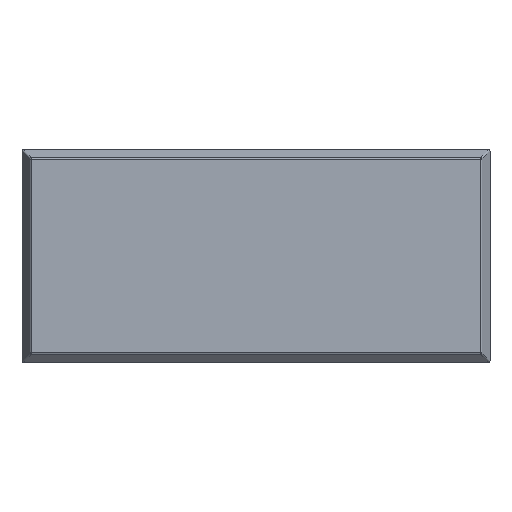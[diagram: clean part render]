
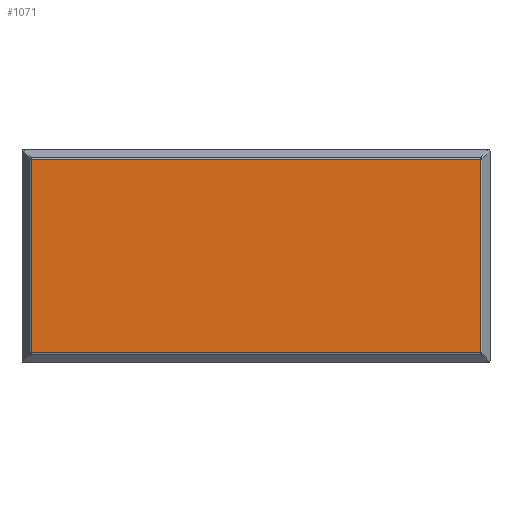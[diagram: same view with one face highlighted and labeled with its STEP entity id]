
A CAD part, top view. The second image highlights one B-rep face of the part: STEP entity #1071.
In plain terms, the highlighted planar face has unit normal (0, 0, 1).
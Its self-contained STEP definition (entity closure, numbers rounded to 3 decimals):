
#1071=ADVANCED_FACE('',(#3067),#3069,.T.);
#3067=FACE_BOUND('',#3068,.T.);
#3068=EDGE_LOOP('',(#7783,#7784,#7785,#7786));
#3069=PLANE('',#3070);
#3070=AXIS2_PLACEMENT_3D('',#3071,#3072,#3073);
#3071=CARTESIAN_POINT('',(0.,0.,0.));
#3072=DIRECTION('',(0.,0.,1.));
#3073=DIRECTION('',(0.,1.,0.));
#7783=ORIENTED_EDGE('',*,*,#8467,.T.);
#7784=ORIENTED_EDGE('',*,*,#8463,.T.);
#7785=ORIENTED_EDGE('',*,*,#8472,.T.);
#7786=ORIENTED_EDGE('',*,*,#8470,.T.);
#8463=EDGE_CURVE('',#9183,#9180,#9184,.T.);
#8467=EDGE_CURVE('',#9187,#9183,#9189,.T.);
#8470=EDGE_CURVE('',#9191,#9187,#9193,.T.);
#8472=EDGE_CURVE('',#9180,#9191,#9195,.T.);
#9180=VERTEX_POINT('',#11034);
#9183=VERTEX_POINT('',#11043);
#9184=LINE('',#11044,#11045);
#9187=VERTEX_POINT('',#11055);
#9189=LINE('',#11060,#11061);
#9191=VERTEX_POINT('',#11067);
#9193=LINE('',#11072,#11073);
#9195=LINE('',#11079,#11080);
#11034=CARTESIAN_POINT('',(-527.77,227.77,0.));
#11043=CARTESIAN_POINT('',(527.77,227.77,0.));
#11044=CARTESIAN_POINT('',(527.77,227.77,0.));
#11045=VECTOR('',#11046,1.);
#11046=DIRECTION('',(-1.,0.,0.));
#11055=CARTESIAN_POINT('',(527.77,-227.77,0.));
#11060=CARTESIAN_POINT('',(527.77,-227.77,0.));
#11061=VECTOR('',#11062,1.);
#11062=DIRECTION('',(0.,1.,0.));
#11067=CARTESIAN_POINT('',(-527.77,-227.77,0.));
#11072=CARTESIAN_POINT('',(-527.77,-227.77,0.));
#11073=VECTOR('',#11074,1.);
#11074=DIRECTION('',(1.,0.,0.));
#11079=CARTESIAN_POINT('',(-527.77,227.77,0.));
#11080=VECTOR('',#11081,1.);
#11081=DIRECTION('',(0.,-1.,0.));
